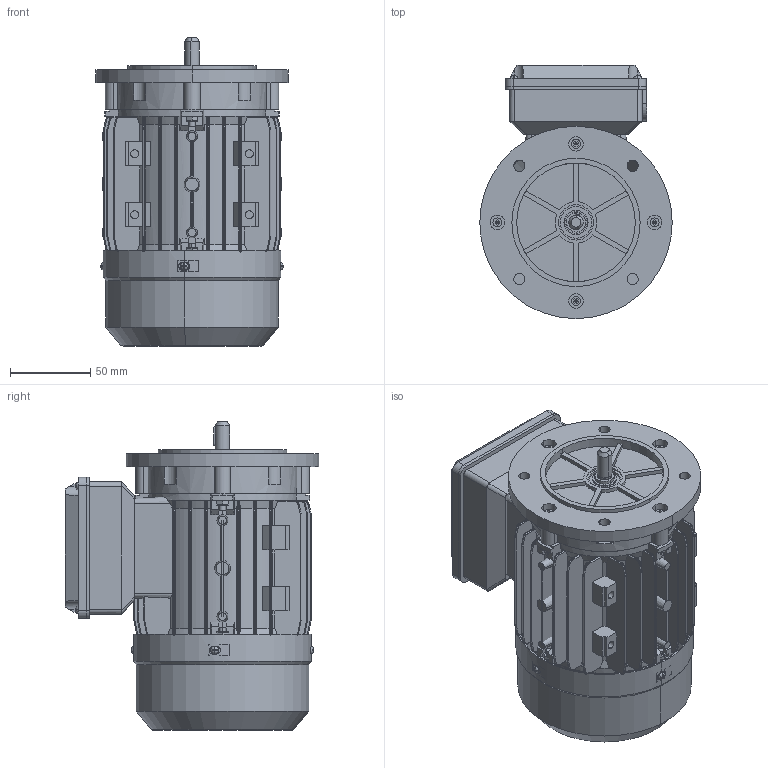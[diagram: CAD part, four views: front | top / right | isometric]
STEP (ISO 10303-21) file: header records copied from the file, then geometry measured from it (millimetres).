
FILE_DESCRIPTION (( 'STEP AP203' ), '1' );
FILE_NAME ('B5.STEP', '2019-09-09T13:13:05', ( '微软中国' ), ( '微软中国' ), 'SwSTEP 2.0', 'SolidWorks 2012', '' );
FILE_SCHEMA (( 'CONFIG_CONTROL_DESIGN' ));
Length unit declared in the file: millimetre
Products named in the file (16): B5; 蹟邡酗; 蹟邡; 瑩; 蹟譫; 蹟隊; 諉盄碟裔; 諉盄碟釱; 瑞欶; 瑞珔; 蚐猾; 粣創; 蛌赽; B3綴裔; 儂褲
Assembly tree (35 placements, depth 2):
  B5
    儂褲
    B5
    B3綴裔
    蛌赽
    粣創
    蚐猾
    瑞珔
    瑞欶
    諉盄碟釱
    諉盄碟裔
    蹟隊  x8
    蹟譫  x8
    瑩
    蹟邡  x4
    蹟邡酗  x4
Bounding box: 120 x 158 x 192.5 mm (x, y, z)
Volume: 403170.3 mm3; surface area: 325814.9 mm2
Topology: 38 solids, 38 shells, 2276 faces, 5913 edges, 3789 vertices
Faces by surface type: plane 1147, cylinder 840, cone 139, bspline 98, torus 52
Entity records: 66275 total; most frequent: CARTESIAN_POINT 17588, ORIENTED_EDGE 10042, DIRECTION 9313, EDGE_CURVE 5021, VERTEX_POINT 3231, AXIS2_PLACEMENT_3D 3204, LINE 2905, VECTOR 2905
